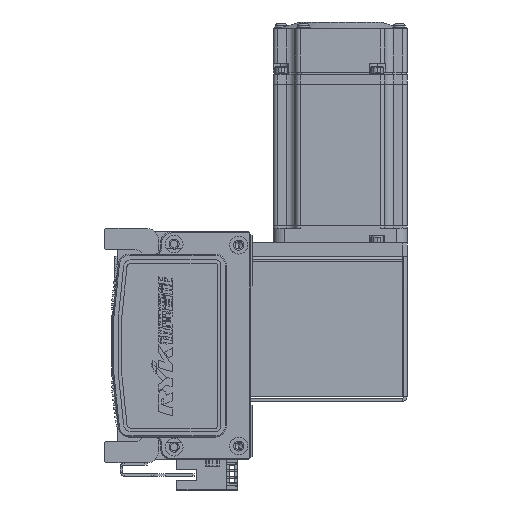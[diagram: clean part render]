
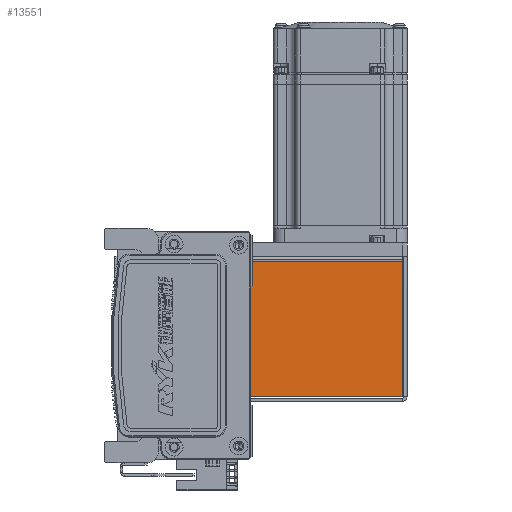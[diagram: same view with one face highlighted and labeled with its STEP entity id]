
A CAD part, left-side view. The second image highlights one B-rep face of the part: STEP entity #13551.
In plain terms, the highlighted planar face has unit normal (-1, 0, 0) as drawn and (0, 0, 1) by its records, which use the part's own axes.
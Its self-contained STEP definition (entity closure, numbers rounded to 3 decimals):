
#722 = VERTEX_POINT ( 'NONE', #63608 ) ;
#3404 = CARTESIAN_POINT ( 'NONE',  ( 30.263, 0.737, 35. ) ) ;
#4842 = DIRECTION ( 'NONE',  ( -1., 0., 0. ) ) ;
#8117 = VECTOR ( 'NONE', #27241, 1000. ) ;
#9431 = PLANE ( 'NONE',  #57847 ) ;
#9633 = FACE_OUTER_BOUND ( 'NONE', #48600, .T. ) ;
#10151 = CARTESIAN_POINT ( 'NONE',  ( 0., 0., 35. ) ) ;
#11382 = ORIENTED_EDGE ( 'NONE', *, *, #38732, .T. ) ;
#11765 = VERTEX_POINT ( 'NONE', #58280 ) ;
#13106 = ORIENTED_EDGE ( 'NONE', *, *, #41276, .F. ) ;
#13551 = ADVANCED_FACE ( 'NONE', ( #9633 ), #9431, .F. ) ;
#14318 = CARTESIAN_POINT ( 'NONE',  ( 0., 72.5, 35. ) ) ;
#16134 = EDGE_CURVE ( 'NONE', #45725, #11765, #54321, .T. ) ;
#22193 = CARTESIAN_POINT ( 'NONE',  ( 30.263, 72.5, 35. ) ) ;
#22872 = EDGE_CURVE ( 'NONE', #722, #47620, #69074, .T. ) ;
#26802 = DIRECTION ( 'NONE',  ( 0., 0., -1. ) ) ;
#27241 = DIRECTION ( 'NONE',  ( -1., 0., 0. ) ) ;
#30915 = DIRECTION ( 'NONE',  ( 0., 1., 0. ) ) ;
#37226 = VECTOR ( 'NONE', #52029, 1000. ) ;
#38732 = EDGE_CURVE ( 'NONE', #47620, #11765, #51972, .T. ) ;
#41276 = EDGE_CURVE ( 'NONE', #722, #45725, #47869, .T. ) ;
#45725 = VERTEX_POINT ( 'NONE', #56498 ) ;
#47620 = VERTEX_POINT ( 'NONE', #22193 ) ;
#47869 = LINE ( 'NONE', #65590, #8117 ) ;
#48600 = EDGE_LOOP ( 'NONE', ( #53870, #11382, #68080, #13106 ) ) ;
#51972 = LINE ( 'NONE', #14318, #37226 ) ;
#52029 = DIRECTION ( 'NONE',  ( -1., 0., 0. ) ) ;
#53799 = DIRECTION ( 'NONE',  ( 0., 1., 0. ) ) ;
#53870 = ORIENTED_EDGE ( 'NONE', *, *, #22872, .T. ) ;
#54321 = LINE ( 'NONE', #65572, #63750 ) ;
#56498 = CARTESIAN_POINT ( 'NONE',  ( -30.293, 0.737, 35. ) ) ;
#57847 = AXIS2_PLACEMENT_3D ( 'NONE', #10151, #26802, #4842 ) ;
#58280 = CARTESIAN_POINT ( 'NONE',  ( -30.293, 72.5, 35. ) ) ;
#63608 = CARTESIAN_POINT ( 'NONE',  ( 30.263, 0.737, 35. ) ) ;
#63750 = VECTOR ( 'NONE', #53799, 1000. ) ;
#65572 = CARTESIAN_POINT ( 'NONE',  ( -30.293, 0., 35. ) ) ;
#65590 = CARTESIAN_POINT ( 'NONE',  ( -32.5, 0.737, 35. ) ) ;
#68080 = ORIENTED_EDGE ( 'NONE', *, *, #16134, .F. ) ;
#68243 = VECTOR ( 'NONE', #30915, 1000. ) ;
#69074 = LINE ( 'NONE', #3404, #68243 ) ;
